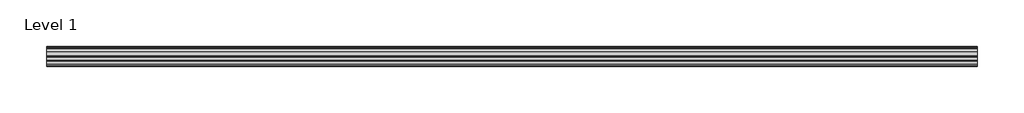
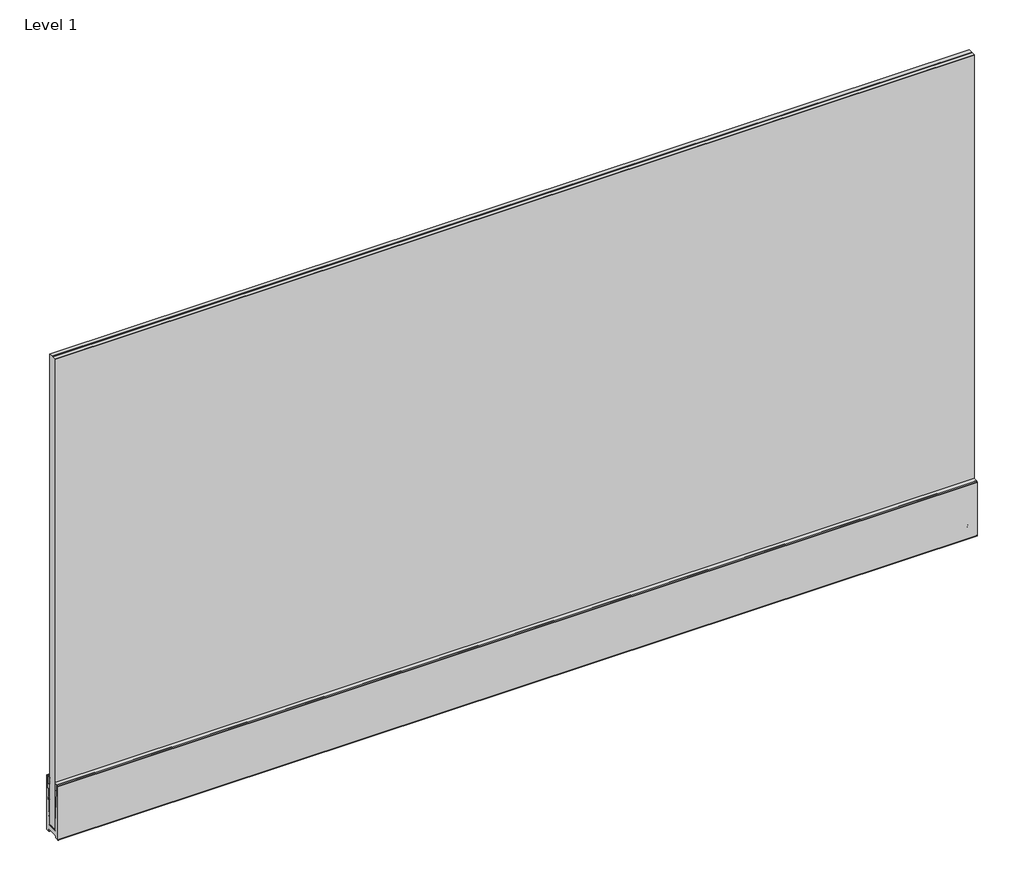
# One storey: 1 railing.
"""IFC4 building model written with IfcOpenShell, lengths in millimetres."""

from ifc_helpers import new_model, si_unit, origin, place, context, project, spatial, transform, mapped, element, save
from components import railing_58184d31

model = new_model("IFC4")

# Units and contexts
model_context = context("Model", 3, world=origin())
ifc_project = project(units=[si_unit("LENGTHUNIT", "METRE", prefix="MILLI")], contexts=[model_context])

# Site, building, storey
site = spatial("IfcSite", under=ifc_project)
building = spatial("IfcBuilding", under=site)
storey = spatial("IfcBuildingStorey", under=building, Name="Level 1", Elevation=0.0)

# Railing
placement = place(None, origin())
railing_shape = railing_58184d31(model_context)
element("IfcRailing", 1, ObjectType="Extrusal-F100-Serviços", at=placement, inside=storey, context=model_context, shape_type="MappedRepresentation", body=[
    mapped(railing_shape, transform((0.0, 0.0, 0.0), x_axis=(1.0, 0.0, 0.0), y_axis=(0.0, 1.0, 0.0), z_axis=(0.0, 0.0, 1.0))),
])

save(model, "model.ifc")
